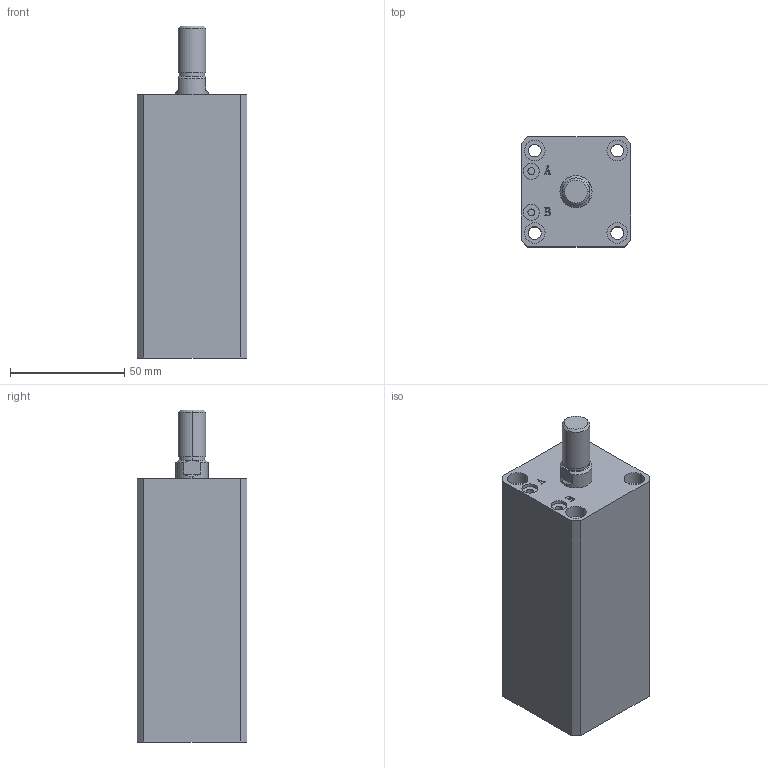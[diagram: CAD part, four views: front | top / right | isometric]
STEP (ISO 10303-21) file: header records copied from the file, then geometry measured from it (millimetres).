
FILE_DESCRIPTION (( 'STEP AP203' ), '1' );
FILE_NAME ('HTB-SDMA25-70W.STEP', '2019-10-07T11:11:47', ( '微软用户' ), ( '微软中国' ), 'SwSTEP 2.0', 'SolidWorks 2012', '' );
FILE_SCHEMA (( 'CONFIG_CONTROL_DESIGN' ));
Length unit declared in the file: millimetre
Products named in the file (3): HTB-SDMA25-70W; HTB-SDMA25-70W活塞杆; HTB-SDMA25-70掛极
Assembly tree (2 placements, depth 2):
  HTB-SDMA25-70W
    HTB-SDMA25-70掛极
    HTB-SDMA25-70W活塞杆
Bounding box: 48 x 48 x 145 mm (x, y, z)
Volume: 229867.1 mm3; surface area: 50233.1 mm2
Topology: 2 solids, 2 shells, 141 faces, 335 edges, 220 vertices
Faces by surface type: plane 67, cylinder 48, bspline 16, torus 6, cone 4
Entity records: 5178 total; most frequent: CARTESIAN_POINT 1609, ORIENTED_EDGE 670, DIRECTION 667, EDGE_CURVE 335, AXIS2_PLACEMENT_3D 242, VERTEX_POINT 220, LINE 183, VECTOR 183
